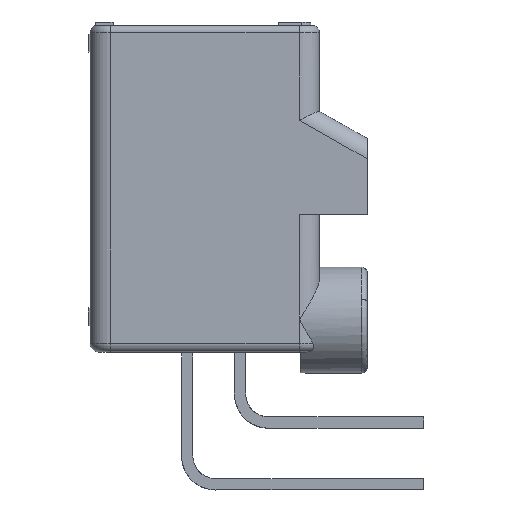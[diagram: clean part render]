
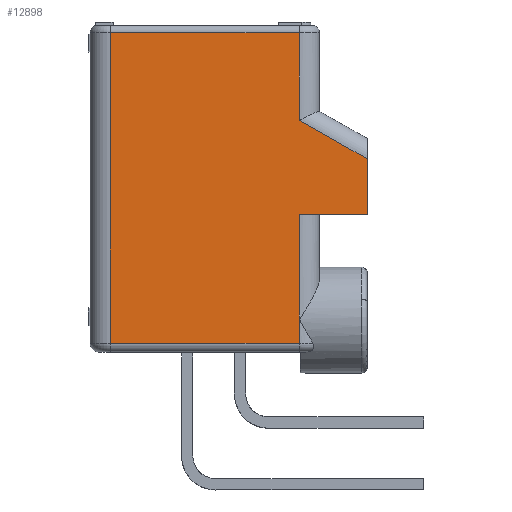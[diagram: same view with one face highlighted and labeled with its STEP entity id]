
A CAD part, left-side view. The second image highlights one B-rep face of the part: STEP entity #12898.
In plain terms, the highlighted planar face has unit normal (-1, 0, 0).
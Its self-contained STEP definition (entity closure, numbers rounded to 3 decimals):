
#620 = DIRECTION ( 'NONE',  ( 0., 0., -1. ) ) ;
#1409 = CARTESIAN_POINT ( 'NONE',  ( -9.55, -15.8, 7.452 ) ) ;
#1453 = ORIENTED_EDGE ( 'NONE', *, *, #15698, .T. ) ;
#2713 = DIRECTION ( 'NONE',  ( 0., 1., 0. ) ) ;
#2871 = DIRECTION ( 'NONE',  ( 1., 0., 0. ) ) ;
#2974 = DIRECTION ( 'NONE',  ( 0., 0., 1. ) ) ;
#3077 = LINE ( 'NONE', #7593, #15323 ) ;
#3319 = CARTESIAN_POINT ( 'NONE',  ( -9.55, -8.525, 5.8 ) ) ;
#4683 = CARTESIAN_POINT ( 'NONE',  ( -9.55, -11.95, -3. ) ) ;
#4846 = EDGE_LOOP ( 'NONE', ( #29577, #6978, #20974, #10053, #6630, #15073, #17480, #1453 ) ) ;
#5629 = LINE ( 'NONE', #20111, #13317 ) ;
#5801 = VERTEX_POINT ( 'NONE', #13428 ) ;
#5899 = AXIS2_PLACEMENT_3D ( 'NONE', #3319, #2871, #2713 ) ;
#6097 = VERTEX_POINT ( 'NONE', #27373 ) ;
#6630 = ORIENTED_EDGE ( 'NONE', *, *, #24562, .T. ) ;
#6978 = ORIENTED_EDGE ( 'NONE', *, *, #29177, .F. ) ;
#7324 = LINE ( 'NONE', #16828, #12918 ) ;
#7328 = LINE ( 'NONE', #4683, #15172 ) ;
#7593 = CARTESIAN_POINT ( 'NONE',  ( -9.55, -15.8, 4.3 ) ) ;
#7610 = CARTESIAN_POINT ( 'NONE',  ( -9.55, -1.25, 14.6 ) ) ;
#7894 = VECTOR ( 'NONE', #22880, 1000. ) ;
#10053 = ORIENTED_EDGE ( 'NONE', *, *, #21195, .F. ) ;
#11051 = CARTESIAN_POINT ( 'NONE',  ( -9.55, -11.95, 9.624 ) ) ;
#11180 = CARTESIAN_POINT ( 'NONE',  ( -9.55, -1.25, -3. ) ) ;
#12400 = VERTEX_POINT ( 'NONE', #30782 ) ;
#12591 = CARTESIAN_POINT ( 'NONE',  ( -9.55, -11.95, 9.624 ) ) ;
#12898 = ADVANCED_FACE ( 'NONE', ( #24515 ), #14549, .F. ) ;
#12918 = VECTOR ( 'NONE', #620, 1000. ) ;
#13317 = VECTOR ( 'NONE', #29607, 1000. ) ;
#13428 = CARTESIAN_POINT ( 'NONE',  ( -9.55, -11.95, 14.6 ) ) ;
#13748 = LINE ( 'NONE', #29639, #20287 ) ;
#14005 = VERTEX_POINT ( 'NONE', #20461 ) ;
#14031 = EDGE_CURVE ( 'NONE', #25611, #12400, #13748, .T. ) ;
#14549 = PLANE ( 'NONE',  #5899 ) ;
#15073 = ORIENTED_EDGE ( 'NONE', *, *, #28486, .T. ) ;
#15172 = VECTOR ( 'NONE', #2974, 1000. ) ;
#15323 = VECTOR ( 'NONE', #26442, 1000. ) ;
#15467 = DIRECTION ( 'NONE',  ( 0., 0., -1. ) ) ;
#15698 = EDGE_CURVE ( 'NONE', #12400, #17883, #17735, .T. ) ;
#16174 = DIRECTION ( 'NONE',  ( 0., 0., 1. ) ) ;
#16223 = CARTESIAN_POINT ( 'NONE',  ( -9.55, -11.95, 4.3 ) ) ;
#16335 = LINE ( 'NONE', #11051, #20222 ) ;
#16828 = CARTESIAN_POINT ( 'NONE',  ( -9.55, -15.8, 7.452 ) ) ;
#16910 = CARTESIAN_POINT ( 'NONE',  ( -9.55, -11.95, -3. ) ) ;
#17215 = EDGE_CURVE ( 'NONE', #27718, #14005, #7324, .T. ) ;
#17480 = ORIENTED_EDGE ( 'NONE', *, *, #14031, .T. ) ;
#17735 = LINE ( 'NONE', #11180, #7894 ) ;
#17883 = VERTEX_POINT ( 'NONE', #16910 ) ;
#20068 = VECTOR ( 'NONE', #22106, 1000. ) ;
#20111 = CARTESIAN_POINT ( 'NONE',  ( -9.55, -11.95, 14.6 ) ) ;
#20222 = VECTOR ( 'NONE', #16174, 1000. ) ;
#20287 = VECTOR ( 'NONE', #15467, 1000. ) ;
#20461 = CARTESIAN_POINT ( 'NONE',  ( -9.55, -15.8, 4.3 ) ) ;
#20974 = ORIENTED_EDGE ( 'NONE', *, *, #17215, .F. ) ;
#21195 = EDGE_CURVE ( 'NONE', #6097, #27718, #23993, .T. ) ;
#22106 = DIRECTION ( 'NONE',  ( 0., -0.871, -0.491 ) ) ;
#22880 = DIRECTION ( 'NONE',  ( 0., -1., 0. ) ) ;
#23152 = EDGE_CURVE ( 'NONE', #17883, #26249, #7328, .T. ) ;
#23993 = LINE ( 'NONE', #12591, #20068 ) ;
#24515 = FACE_OUTER_BOUND ( 'NONE', #4846, .T. ) ;
#24562 = EDGE_CURVE ( 'NONE', #6097, #5801, #16335, .T. ) ;
#25611 = VERTEX_POINT ( 'NONE', #7610 ) ;
#26249 = VERTEX_POINT ( 'NONE', #16223 ) ;
#26442 = DIRECTION ( 'NONE',  ( 0., 1., 0. ) ) ;
#27373 = CARTESIAN_POINT ( 'NONE',  ( -9.55, -11.95, 9.624 ) ) ;
#27718 = VERTEX_POINT ( 'NONE', #1409 ) ;
#28486 = EDGE_CURVE ( 'NONE', #5801, #25611, #5629, .T. ) ;
#29177 = EDGE_CURVE ( 'NONE', #14005, #26249, #3077, .T. ) ;
#29577 = ORIENTED_EDGE ( 'NONE', *, *, #23152, .T. ) ;
#29607 = DIRECTION ( 'NONE',  ( 0., 1., 0. ) ) ;
#29639 = CARTESIAN_POINT ( 'NONE',  ( -9.55, -1.25, 14.6 ) ) ;
#30782 = CARTESIAN_POINT ( 'NONE',  ( -9.55, -1.25, -3. ) ) ;
